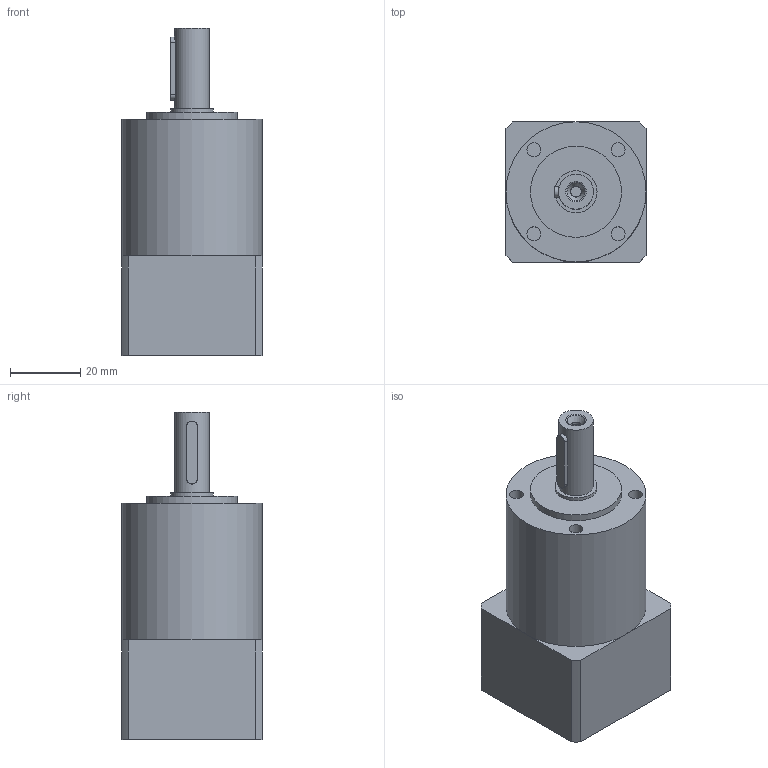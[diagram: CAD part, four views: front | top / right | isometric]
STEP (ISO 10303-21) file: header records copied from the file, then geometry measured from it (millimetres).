
FILE_DESCRIPTION((' Parasolid data model '),'2;1');
FILE_NAME('GSSL','1999-11-09T08:25:47+00:00',(' GSSL '),(' GSSL Pune '),'','GSSL Pune','Author');
FILE_SCHEMA(('CONFIG_CONTROL_DESIGN'));
Length unit declared in the file: millimetre
Bounding box: 40 x 40 x 93.5 mm (x, y, z)
Volume: 93355.6 mm3; surface area: 15221.9 mm2
Topology: 1 solids, 1 shells, 52 faces, 101 edges, 65 vertices
Faces by surface type: plane 27, cylinder 22, cone 3
Full cylindrical faces by diameter (mm): 3 x1, 3.183 x1, 4 x8, 8 x1, 10 x1, 12 x1, 26 x1, 30 x1, 40 x1
Entity records: 1364 total; most frequent: CARTESIAN_POINT 329, DIRECTION 200, ORIENTED_EDGE 154, AXIS2_PLACEMENT_3D 88, EDGE_LOOP 86, EDGE_CURVE 77, VERTEX_POINT 61, ADVANCED_FACE 52
